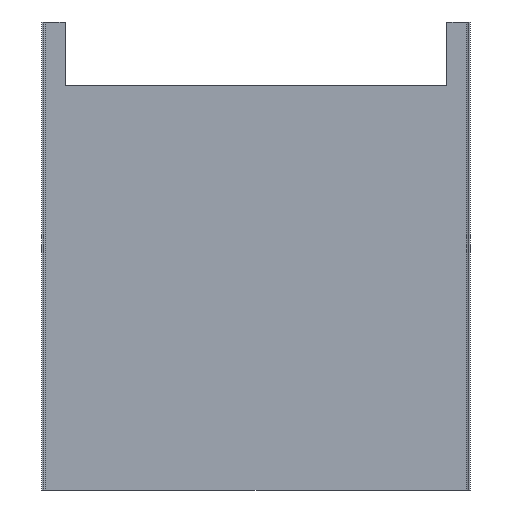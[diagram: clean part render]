
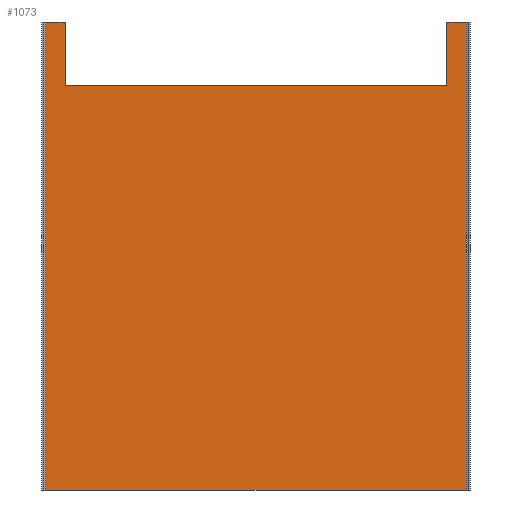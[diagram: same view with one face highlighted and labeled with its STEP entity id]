
A CAD part, front view. The second image highlights one B-rep face of the part: STEP entity #1073.
In plain terms, the highlighted planar face has unit normal (0, -1, 0).
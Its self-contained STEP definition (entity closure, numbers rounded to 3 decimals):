
#72 = PLANE('',#73);
#73 = AXIS2_PLACEMENT_3D('',#74,#75,#76);
#74 = CARTESIAN_POINT('',(0.,197.792,645.));
#75 = DIRECTION('',(0.,-0.,-1.));
#76 = DIRECTION('',(-1.,0.,0.));
#126 = PLANE('',#127);
#127 = AXIS2_PLACEMENT_3D('',#128,#129,#130);
#128 = CARTESIAN_POINT('',(0.,197.792,0.));
#129 = DIRECTION('',(0.,-0.,-1.));
#130 = DIRECTION('',(-1.,0.,0.));
#434 = VERTEX_POINT('',#435);
#435 = CARTESIAN_POINT('',(-290.,258.,0.));
#450 = CYLINDRICAL_SURFACE('',#451,3.);
#451 = AXIS2_PLACEMENT_3D('',#452,#453,#454);
#452 = CARTESIAN_POINT('',(-290.,255.,0.));
#453 = DIRECTION('',(0.,-0.,-1.));
#454 = DIRECTION('',(-1.,-0.,-0.));
#462 = EDGE_CURVE('',#434,#463,#465,.T.);
#463 = VERTEX_POINT('',#464);
#464 = CARTESIAN_POINT('',(290.,258.,0.));
#465 = SURFACE_CURVE('',#466,(#470,#477),.PCURVE_S1.);
#466 = LINE('',#467,#468);
#467 = CARTESIAN_POINT('',(-290.,258.,0.));
#468 = VECTOR('',#469,1.);
#469 = DIRECTION('',(1.,-0.,-0.));
#470 = PCURVE('',#126,#471);
#471 = DEFINITIONAL_REPRESENTATION('',(#472),#476);
#472 = LINE('',#473,#474);
#473 = CARTESIAN_POINT('',(290.,60.208));
#474 = VECTOR('',#475,1.);
#475 = DIRECTION('',(-1.,0.));
#476 = ( GEOMETRIC_REPRESENTATION_CONTEXT(2) 
PARAMETRIC_REPRESENTATION_CONTEXT() REPRESENTATION_CONTEXT('2D SPACE',''
  ) );
#477 = PCURVE('',#478,#483);
#478 = PLANE('',#479);
#479 = AXIS2_PLACEMENT_3D('',#480,#481,#482);
#480 = CARTESIAN_POINT('',(-290.,258.,0.));
#481 = DIRECTION('',(-0.,-1.,-0.));
#482 = DIRECTION('',(-1.,0.,0.));
#483 = DEFINITIONAL_REPRESENTATION('',(#484),#488);
#484 = LINE('',#485,#486);
#485 = CARTESIAN_POINT('',(-0.,0.));
#486 = VECTOR('',#487,1.);
#487 = DIRECTION('',(-1.,0.));
#488 = ( GEOMETRIC_REPRESENTATION_CONTEXT(2) 
PARAMETRIC_REPRESENTATION_CONTEXT() REPRESENTATION_CONTEXT('2D SPACE',''
  ) );
#507 = CYLINDRICAL_SURFACE('',#508,3.);
#508 = AXIS2_PLACEMENT_3D('',#509,#510,#511);
#509 = CARTESIAN_POINT('',(290.,255.,0.));
#510 = DIRECTION('',(0.,-0.,-1.));
#511 = DIRECTION('',(-1.,-0.,-0.));
#571 = VERTEX_POINT('',#572);
#572 = CARTESIAN_POINT('',(263.,258.,645.));
#586 = PLANE('',#587);
#587 = AXIS2_PLACEMENT_3D('',#588,#589,#590);
#588 = CARTESIAN_POINT('',(263.,250.,557.));
#589 = DIRECTION('',(-1.,-0.,-0.));
#590 = DIRECTION('',(0.,0.,-1.));
#598 = EDGE_CURVE('',#571,#599,#601,.T.);
#599 = VERTEX_POINT('',#600);
#600 = CARTESIAN_POINT('',(290.,258.,645.));
#601 = SURFACE_CURVE('',#602,(#606,#613),.PCURVE_S1.);
#602 = LINE('',#603,#604);
#603 = CARTESIAN_POINT('',(-290.,258.,645.));
#604 = VECTOR('',#605,1.);
#605 = DIRECTION('',(1.,-0.,-0.));
#606 = PCURVE('',#72,#607);
#607 = DEFINITIONAL_REPRESENTATION('',(#608),#612);
#608 = LINE('',#609,#610);
#609 = CARTESIAN_POINT('',(290.,60.208));
#610 = VECTOR('',#611,1.);
#611 = DIRECTION('',(-1.,0.));
#612 = ( GEOMETRIC_REPRESENTATION_CONTEXT(2) 
PARAMETRIC_REPRESENTATION_CONTEXT() REPRESENTATION_CONTEXT('2D SPACE',''
  ) );
#613 = PCURVE('',#478,#614);
#614 = DEFINITIONAL_REPRESENTATION('',(#615),#619);
#615 = LINE('',#616,#617);
#616 = CARTESIAN_POINT('',(-0.,-645.));
#617 = VECTOR('',#618,1.);
#618 = DIRECTION('',(-1.,0.));
#619 = ( GEOMETRIC_REPRESENTATION_CONTEXT(2) 
PARAMETRIC_REPRESENTATION_CONTEXT() REPRESENTATION_CONTEXT('2D SPACE',''
  ) );
#738 = PLANE('',#739);
#739 = AXIS2_PLACEMENT_3D('',#740,#741,#742);
#740 = CARTESIAN_POINT('',(263.,250.,557.));
#741 = DIRECTION('',(-0.,-0.,1.));
#742 = DIRECTION('',(1.,0.,0.));
#766 = PLANE('',#767);
#767 = AXIS2_PLACEMENT_3D('',#768,#769,#770);
#768 = CARTESIAN_POINT('',(-263.,250.,557.));
#769 = DIRECTION('',(-1.,-0.,-0.));
#770 = DIRECTION('',(0.,0.,-1.));
#794 = PLANE('',#795);
#795 = AXIS2_PLACEMENT_3D('',#796,#797,#798);
#796 = CARTESIAN_POINT('',(0.,197.792,645.));
#797 = DIRECTION('',(0.,-0.,-1.));
#798 = DIRECTION('',(-1.,0.,0.));
#1029 = VERTEX_POINT('',#1030);
#1030 = CARTESIAN_POINT('',(-290.,258.,645.));
#1052 = EDGE_CURVE('',#434,#1029,#1053,.T.);
#1053 = SURFACE_CURVE('',#1054,(#1058,#1065),.PCURVE_S1.);
#1054 = LINE('',#1055,#1056);
#1055 = CARTESIAN_POINT('',(-290.,258.,0.));
#1056 = VECTOR('',#1057,1.);
#1057 = DIRECTION('',(-0.,-0.,1.));
#1058 = PCURVE('',#450,#1059);
#1059 = DEFINITIONAL_REPRESENTATION('',(#1060),#1064);
#1060 = LINE('',#1061,#1062);
#1061 = CARTESIAN_POINT('',(1.571,0.));
#1062 = VECTOR('',#1063,1.);
#1063 = DIRECTION('',(0.,-1.));
#1064 = ( GEOMETRIC_REPRESENTATION_CONTEXT(2) 
PARAMETRIC_REPRESENTATION_CONTEXT() REPRESENTATION_CONTEXT('2D SPACE',''
  ) );
#1065 = PCURVE('',#478,#1066);
#1066 = DEFINITIONAL_REPRESENTATION('',(#1067),#1071);
#1067 = LINE('',#1068,#1069);
#1068 = CARTESIAN_POINT('',(-0.,0.));
#1069 = VECTOR('',#1070,1.);
#1070 = DIRECTION('',(-0.,-1.));
#1071 = ( GEOMETRIC_REPRESENTATION_CONTEXT(2) 
PARAMETRIC_REPRESENTATION_CONTEXT() REPRESENTATION_CONTEXT('2D SPACE',''
  ) );
#1073 = ADVANCED_FACE('',(#1074),#478,.T.);
#1074 = FACE_BOUND('',#1075,.F.);
#1075 = EDGE_LOOP('',(#1076,#1077,#1078,#1101,#1124,#1147,#1168,#1169));
#1076 = ORIENTED_EDGE('',*,*,#462,.F.);
#1077 = ORIENTED_EDGE('',*,*,#1052,.T.);
#1078 = ORIENTED_EDGE('',*,*,#1079,.T.);
#1079 = EDGE_CURVE('',#1029,#1080,#1082,.T.);
#1080 = VERTEX_POINT('',#1081);
#1081 = CARTESIAN_POINT('',(-263.,258.,645.));
#1082 = SURFACE_CURVE('',#1083,(#1087,#1094),.PCURVE_S1.);
#1083 = LINE('',#1084,#1085);
#1084 = CARTESIAN_POINT('',(-290.,258.,645.));
#1085 = VECTOR('',#1086,1.);
#1086 = DIRECTION('',(1.,-0.,-0.));
#1087 = PCURVE('',#478,#1088);
#1088 = DEFINITIONAL_REPRESENTATION('',(#1089),#1093);
#1089 = LINE('',#1090,#1091);
#1090 = CARTESIAN_POINT('',(-0.,-645.));
#1091 = VECTOR('',#1092,1.);
#1092 = DIRECTION('',(-1.,0.));
#1093 = ( GEOMETRIC_REPRESENTATION_CONTEXT(2) 
PARAMETRIC_REPRESENTATION_CONTEXT() REPRESENTATION_CONTEXT('2D SPACE',''
  ) );
#1094 = PCURVE('',#794,#1095);
#1095 = DEFINITIONAL_REPRESENTATION('',(#1096),#1100);
#1096 = LINE('',#1097,#1098);
#1097 = CARTESIAN_POINT('',(290.,60.208));
#1098 = VECTOR('',#1099,1.);
#1099 = DIRECTION('',(-1.,0.));
#1100 = ( GEOMETRIC_REPRESENTATION_CONTEXT(2) 
PARAMETRIC_REPRESENTATION_CONTEXT() REPRESENTATION_CONTEXT('2D SPACE',''
  ) );
#1101 = ORIENTED_EDGE('',*,*,#1102,.F.);
#1102 = EDGE_CURVE('',#1103,#1080,#1105,.T.);
#1103 = VERTEX_POINT('',#1104);
#1104 = CARTESIAN_POINT('',(-263.,258.,557.));
#1105 = SURFACE_CURVE('',#1106,(#1110,#1117),.PCURVE_S1.);
#1106 = LINE('',#1107,#1108);
#1107 = CARTESIAN_POINT('',(-263.,258.,278.5));
#1108 = VECTOR('',#1109,1.);
#1109 = DIRECTION('',(-0.,-0.,1.));
#1110 = PCURVE('',#478,#1111);
#1111 = DEFINITIONAL_REPRESENTATION('',(#1112),#1116);
#1112 = LINE('',#1113,#1114);
#1113 = CARTESIAN_POINT('',(-27.,-278.5));
#1114 = VECTOR('',#1115,1.);
#1115 = DIRECTION('',(-0.,-1.));
#1116 = ( GEOMETRIC_REPRESENTATION_CONTEXT(2) 
PARAMETRIC_REPRESENTATION_CONTEXT() REPRESENTATION_CONTEXT('2D SPACE',''
  ) );
#1117 = PCURVE('',#766,#1118);
#1118 = DEFINITIONAL_REPRESENTATION('',(#1119),#1123);
#1119 = LINE('',#1120,#1121);
#1120 = CARTESIAN_POINT('',(278.5,-8.));
#1121 = VECTOR('',#1122,1.);
#1122 = DIRECTION('',(-1.,-0.));
#1123 = ( GEOMETRIC_REPRESENTATION_CONTEXT(2) 
PARAMETRIC_REPRESENTATION_CONTEXT() REPRESENTATION_CONTEXT('2D SPACE',''
  ) );
#1124 = ORIENTED_EDGE('',*,*,#1125,.T.);
#1125 = EDGE_CURVE('',#1103,#1126,#1128,.T.);
#1126 = VERTEX_POINT('',#1127);
#1127 = CARTESIAN_POINT('',(263.,258.,557.));
#1128 = SURFACE_CURVE('',#1129,(#1133,#1140),.PCURVE_S1.);
#1129 = LINE('',#1130,#1131);
#1130 = CARTESIAN_POINT('',(-13.5,258.,557.));
#1131 = VECTOR('',#1132,1.);
#1132 = DIRECTION('',(1.,-0.,-0.));
#1133 = PCURVE('',#478,#1134);
#1134 = DEFINITIONAL_REPRESENTATION('',(#1135),#1139);
#1135 = LINE('',#1136,#1137);
#1136 = CARTESIAN_POINT('',(-276.5,-557.));
#1137 = VECTOR('',#1138,1.);
#1138 = DIRECTION('',(-1.,0.));
#1139 = ( GEOMETRIC_REPRESENTATION_CONTEXT(2) 
PARAMETRIC_REPRESENTATION_CONTEXT() REPRESENTATION_CONTEXT('2D SPACE',''
  ) );
#1140 = PCURVE('',#738,#1141);
#1141 = DEFINITIONAL_REPRESENTATION('',(#1142),#1146);
#1142 = LINE('',#1143,#1144);
#1143 = CARTESIAN_POINT('',(-276.5,8.));
#1144 = VECTOR('',#1145,1.);
#1145 = DIRECTION('',(1.,-0.));
#1146 = ( GEOMETRIC_REPRESENTATION_CONTEXT(2) 
PARAMETRIC_REPRESENTATION_CONTEXT() REPRESENTATION_CONTEXT('2D SPACE',''
  ) );
#1147 = ORIENTED_EDGE('',*,*,#1148,.T.);
#1148 = EDGE_CURVE('',#1126,#571,#1149,.T.);
#1149 = SURFACE_CURVE('',#1150,(#1154,#1161),.PCURVE_S1.);
#1150 = LINE('',#1151,#1152);
#1151 = CARTESIAN_POINT('',(263.,258.,278.5));
#1152 = VECTOR('',#1153,1.);
#1153 = DIRECTION('',(-0.,-0.,1.));
#1154 = PCURVE('',#478,#1155);
#1155 = DEFINITIONAL_REPRESENTATION('',(#1156),#1160);
#1156 = LINE('',#1157,#1158);
#1157 = CARTESIAN_POINT('',(-553.,-278.5));
#1158 = VECTOR('',#1159,1.);
#1159 = DIRECTION('',(-0.,-1.));
#1160 = ( GEOMETRIC_REPRESENTATION_CONTEXT(2) 
PARAMETRIC_REPRESENTATION_CONTEXT() REPRESENTATION_CONTEXT('2D SPACE',''
  ) );
#1161 = PCURVE('',#586,#1162);
#1162 = DEFINITIONAL_REPRESENTATION('',(#1163),#1167);
#1163 = LINE('',#1164,#1165);
#1164 = CARTESIAN_POINT('',(278.5,-8.));
#1165 = VECTOR('',#1166,1.);
#1166 = DIRECTION('',(-1.,-0.));
#1167 = ( GEOMETRIC_REPRESENTATION_CONTEXT(2) 
PARAMETRIC_REPRESENTATION_CONTEXT() REPRESENTATION_CONTEXT('2D SPACE',''
  ) );
#1168 = ORIENTED_EDGE('',*,*,#598,.T.);
#1169 = ORIENTED_EDGE('',*,*,#1170,.F.);
#1170 = EDGE_CURVE('',#463,#599,#1171,.T.);
#1171 = SURFACE_CURVE('',#1172,(#1176,#1183),.PCURVE_S1.);
#1172 = LINE('',#1173,#1174);
#1173 = CARTESIAN_POINT('',(290.,258.,0.));
#1174 = VECTOR('',#1175,1.);
#1175 = DIRECTION('',(-0.,-0.,1.));
#1176 = PCURVE('',#478,#1177);
#1177 = DEFINITIONAL_REPRESENTATION('',(#1178),#1182);
#1178 = LINE('',#1179,#1180);
#1179 = CARTESIAN_POINT('',(-580.,0.));
#1180 = VECTOR('',#1181,1.);
#1181 = DIRECTION('',(-0.,-1.));
#1182 = ( GEOMETRIC_REPRESENTATION_CONTEXT(2) 
PARAMETRIC_REPRESENTATION_CONTEXT() REPRESENTATION_CONTEXT('2D SPACE',''
  ) );
#1183 = PCURVE('',#507,#1184);
#1184 = DEFINITIONAL_REPRESENTATION('',(#1185),#1189);
#1185 = LINE('',#1186,#1187);
#1186 = CARTESIAN_POINT('',(1.571,0.));
#1187 = VECTOR('',#1188,1.);
#1188 = DIRECTION('',(0.,-1.));
#1189 = ( GEOMETRIC_REPRESENTATION_CONTEXT(2) 
PARAMETRIC_REPRESENTATION_CONTEXT() REPRESENTATION_CONTEXT('2D SPACE',''
  ) );
